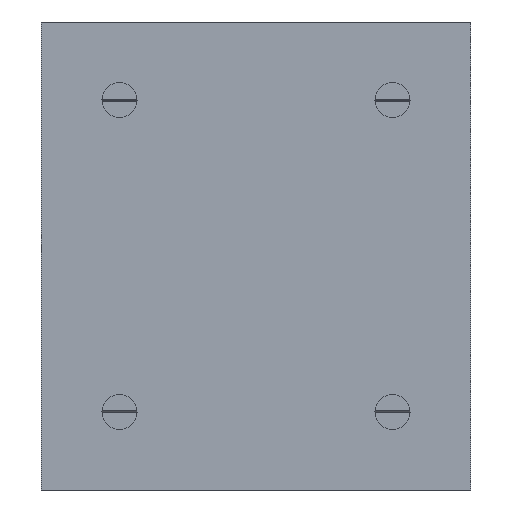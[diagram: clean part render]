
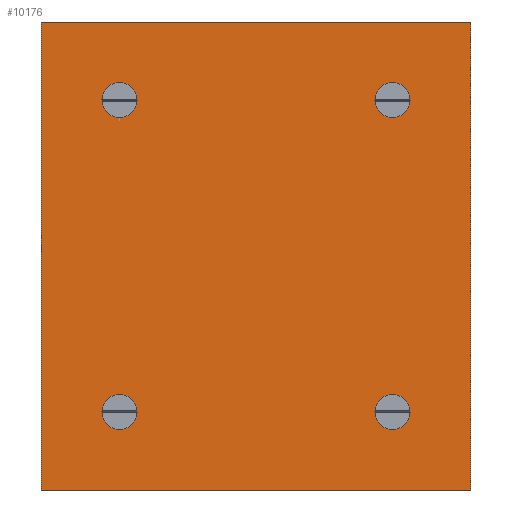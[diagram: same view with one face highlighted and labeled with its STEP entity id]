
A CAD part, front view. The second image highlights one B-rep face of the part: STEP entity #10176.
In plain terms, the highlighted planar face has unit normal (0, -1, 0).
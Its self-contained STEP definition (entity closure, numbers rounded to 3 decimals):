
#346=CIRCLE('',#10772,2.25);
#347=CIRCLE('',#10773,2.25);
#348=CIRCLE('',#10774,2.25);
#349=CIRCLE('',#10775,2.25);
#1040=ORIENTED_EDGE('',*,*,#4185,.T.);
#1041=ORIENTED_EDGE('',*,*,#4186,.F.);
#1042=ORIENTED_EDGE('',*,*,#4187,.F.);
#1043=ORIENTED_EDGE('',*,*,#4188,.F.);
#1044=ORIENTED_EDGE('',*,*,#4138,.T.);
#1045=ORIENTED_EDGE('',*,*,#4189,.F.);
#1046=ORIENTED_EDGE('',*,*,#4190,.F.);
#1047=ORIENTED_EDGE('',*,*,#4183,.T.);
#4138=EDGE_CURVE('',#5717,#5716,#6772,.T.);
#4183=EDGE_CURVE('',#5752,#5717,#6815,.T.);
#4185=EDGE_CURVE('',#5753,#5753,#346,.T.);
#4186=EDGE_CURVE('',#5754,#5754,#347,.T.);
#4187=EDGE_CURVE('',#5755,#5755,#348,.T.);
#4188=EDGE_CURVE('',#5756,#5756,#349,.T.);
#4189=EDGE_CURVE('',#5757,#5716,#6817,.T.);
#4190=EDGE_CURVE('',#5752,#5757,#6818,.T.);
#5716=VERTEX_POINT('',#15330);
#5717=VERTEX_POINT('',#15332);
#5752=VERTEX_POINT('',#15419);
#5753=VERTEX_POINT('',#15423);
#5754=VERTEX_POINT('',#15425);
#5755=VERTEX_POINT('',#15427);
#5756=VERTEX_POINT('',#15429);
#5757=VERTEX_POINT('',#15431);
#6772=LINE('',#15331,#7732);
#6815=LINE('',#15418,#7775);
#6817=LINE('',#15430,#7777);
#6818=LINE('',#15432,#7778);
#7732=VECTOR('',#11979,1000.);
#7775=VECTOR('',#12040,1000.);
#7777=VECTOR('',#12052,1000.);
#7778=VECTOR('',#12053,1000.);
#8677=EDGE_LOOP('',(#1040));
#8678=EDGE_LOOP('',(#1041));
#8679=EDGE_LOOP('',(#1042));
#8680=EDGE_LOOP('',(#1043));
#8681=EDGE_LOOP('',(#1044,#1045,#1046,#1047));
#9297=FACE_BOUND('',#8677,.T.);
#9298=FACE_BOUND('',#8678,.T.);
#9299=FACE_BOUND('',#8679,.T.);
#9300=FACE_BOUND('',#8680,.T.);
#9301=FACE_BOUND('',#8681,.T.);
#9915=PLANE('',#10771);
#10176=ADVANCED_FACE('',(#9297,#9298,#9299,#9300,#9301),#9915,.F.);
#10771=AXIS2_PLACEMENT_3D('',#15421,#12042,#12043);
#10772=AXIS2_PLACEMENT_3D('',#15422,#12044,#12045);
#10773=AXIS2_PLACEMENT_3D('',#15424,#12046,#12047);
#10774=AXIS2_PLACEMENT_3D('',#15426,#12048,#12049);
#10775=AXIS2_PLACEMENT_3D('',#15428,#12050,#12051);
#11979=DIRECTION('',(0.,0.,-1.));
#12040=DIRECTION('',(-1.,0.,0.));
#12042=DIRECTION('',(0.,1.,0.));
#12043=DIRECTION('',(0.,0.,1.));
#12044=DIRECTION('',(0.,1.,0.));
#12045=DIRECTION('',(0.,0.,1.));
#12046=DIRECTION('',(0.,-1.,0.));
#12047=DIRECTION('',(0.,0.,-1.));
#12048=DIRECTION('',(0.,-1.,0.));
#12049=DIRECTION('',(0.,0.,-1.));
#12050=DIRECTION('',(0.,-1.,0.));
#12051=DIRECTION('',(0.,0.,-1.));
#12052=DIRECTION('',(-1.,0.,0.));
#12053=DIRECTION('',(0.,0.,-1.));
#15330=CARTESIAN_POINT('',(0.,0.,-30.));
#15331=CARTESIAN_POINT('',(0.,0.,30.));
#15332=CARTESIAN_POINT('',(0.,0.,30.));
#15418=CARTESIAN_POINT('',(55.,0.,30.));
#15419=CARTESIAN_POINT('',(55.,0.,30.));
#15421=CARTESIAN_POINT('',(55.,0.,30.));
#15422=CARTESIAN_POINT('',(45.,0.,20.));
#15423=CARTESIAN_POINT('',(45.,0.,22.25));
#15424=CARTESIAN_POINT('',(45.,0.,-20.));
#15425=CARTESIAN_POINT('',(45.,0.,-22.25));
#15426=CARTESIAN_POINT('',(10.,0.,-20.));
#15427=CARTESIAN_POINT('',(10.,0.,-22.25));
#15428=CARTESIAN_POINT('',(10.,0.,20.));
#15429=CARTESIAN_POINT('',(10.,0.,17.75));
#15430=CARTESIAN_POINT('',(55.,0.,-30.));
#15431=CARTESIAN_POINT('',(55.,0.,-30.));
#15432=CARTESIAN_POINT('',(55.,0.,30.));
